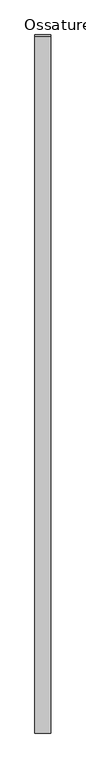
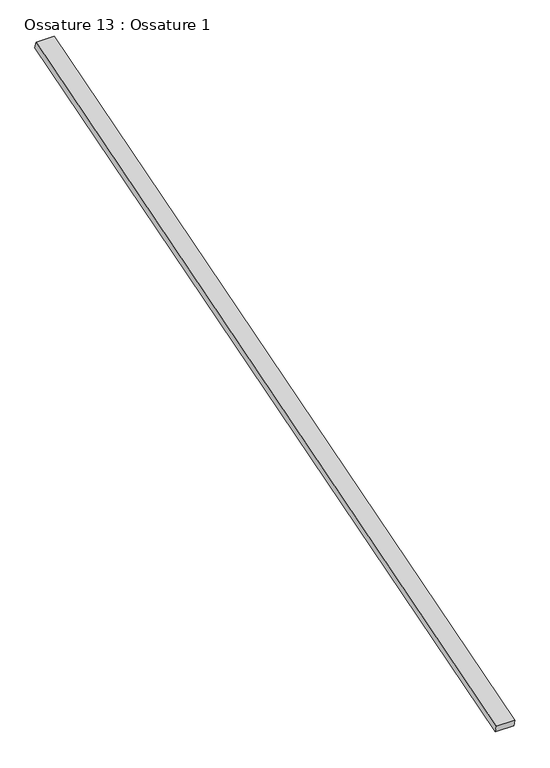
"""IFC4 building model written with IfcOpenShell, lengths in millimetres: beam geometry, Ossature 13 : Ossature 1."""

import ifcopenshell
import ifcopenshell.guid

model = None  # the IFC model being written
_history = None  # IfcOwnerHistory: only IFC2X3 demands one
_inside = {}  # id of a spatial element -> (the spatial element, [elements in it])
_under = {}  # id of a project, library or spatial element -> (it, [spatial elements below it])
_declared = {}  # id of a project -> (the project, [libraries it declares])
_typed = {}  # id of a type object -> (the type object, [elements of that type])
_made_of = {}  # id of a material, layer set ... -> (it, [elements and type objects made of it])


def new_model(schema):
    """Start an empty IFC model of exactly this schema.

    Asked for "IFC4X3", IfcOpenShell would pick the latest addendum, in which some entities
    have other attributes; the version numbers below select the first issue.
    IFC2X3 requires an IfcOwnerHistory on every rooted entity: one is made here for all.
    """
    global model, _history
    if schema == "IFC4X3":
        model = ifcopenshell.file(schema_version=(4, 3, 0, 0))
    else:
        model = ifcopenshell.file(schema=schema)
    _inside.clear()
    _under.clear()
    _declared.clear()
    _typed.clear()
    _made_of.clear()
    _history = None
    if model.schema == "IFC2X3":
        org = make("IfcOrganization", Name="unknown")
        user = make(
            "IfcPersonAndOrganization",
            ThePerson=make("IfcPerson", FamilyName="unknown"),
            TheOrganization=org,
        )
        app = make(
            "IfcApplication",
            ApplicationDeveloper=org,
            Version="unknown",
            ApplicationFullName="unknown",
            ApplicationIdentifier="unknown",
        )
        _history = make(
            "IfcOwnerHistory",
            OwningUser=user,
            OwningApplication=app,
            ChangeAction="ADDED",
            CreationDate=0,
        )
    return model


def make(cls, **values):
    """One entity of the class cls with the attributes given. An attribute that is None is left unset."""
    return model.create_entity(
        cls, **{name: value for name, value in values.items() if value is not None}
    )


def rooted(cls, **values):
    """An entity with a GlobalId (a new one), such as an element, a storey or a relation."""
    return make(cls, GlobalId=ifcopenshell.guid.new(), OwnerHistory=_history, **values)


def si_unit(unit_type, name, prefix=None):
    """IfcSIUnit, for example si_unit("LENGTHUNIT", "METRE", prefix="MILLI")."""
    return make("IfcSIUnit", UnitType=unit_type, Prefix=prefix, Name=name)


def assignment(units):
    """IfcUnitAssignment: the units of a project."""
    return None if units is None else make("IfcUnitAssignment", Units=units)


def point(xyz):
    """IfcCartesianPoint."""
    return None if xyz is None else make("IfcCartesianPoint", Coordinates=xyz)


def direction(xyz):
    """IfcDirection."""
    return None if xyz is None else make("IfcDirection", DirectionRatios=xyz)


def frame(location, z_axis=None, x_axis=None):
    """IfcAxis2Placement3D, a coordinate frame: its origin and axes. An axis left out is left unset."""
    return make(
        "IfcAxis2Placement3D",
        Location=point(location),
        Axis=direction(z_axis),
        RefDirection=direction(x_axis),
    )


def origin():
    """The frame at (0, 0, 0) with its axes left unset."""
    return frame((0.0, 0.0, 0.0))


def place(relative_to, where):
    """IfcLocalPlacement: puts the frame where relative to a parent placement (None: the world)."""
    return make(
        "IfcLocalPlacement", PlacementRelTo=relative_to, RelativePlacement=where
    )


def context(
    kind, dimensions, precision=None, world=None, true_north=None, identifier=None
):
    """IfcGeometricRepresentationContext, for example the 3D "Model" context."""
    return make(
        "IfcGeometricRepresentationContext",
        ContextIdentifier=identifier,
        ContextType=kind,
        CoordinateSpaceDimension=dimensions,
        Precision=precision,
        WorldCoordinateSystem=world,
        TrueNorth=true_north,
    )


def project(units=None, contexts=None):
    """IfcProject with its units and contexts."""
    return rooted(
        "IfcProject",
        Name="project",
        RepresentationContexts=contexts,
        UnitsInContext=assignment(units),
    )


def spatial(cls, under=None, at=None, **own):
    """A site, building, storey or space (cls), placed at a placement, below another one or the project."""
    s = rooted(cls, ObjectPlacement=at, **own)
    if under is not None:
        _under.setdefault(under.id(), (under, []))[1].append(s)
    return s


def polyline(points):
    """IfcPolyline through the points."""
    return make("IfcPolyline", Points=[point(p) for p in points])


def outline(outer, holes=None, kind="AREA"):
    """IfcArbitraryClosedProfileDef: a profile drawn as a closed curve; with holes, ...WithVoids."""
    if holes is None:
        return make("IfcArbitraryClosedProfileDef", ProfileType=kind, OuterCurve=outer)
    return make(
        "IfcArbitraryProfileDefWithVoids",
        ProfileType=kind,
        OuterCurve=outer,
        InnerCurves=holes,
    )


def extrude(swept, where, along, depth):
    """IfcExtrudedAreaSolid: the profile swept, set in the frame where, extruded along a direction by depth."""
    return make(
        "IfcExtrudedAreaSolid",
        SweptArea=swept,
        Position=where,
        ExtrudedDirection=direction(along),
        Depth=depth,
    )


def shape(context_of_items, identifier, shape_type, items):
    """IfcShapeRepresentation: the items that make up one representation, for example the "Body"."""
    return make(
        "IfcShapeRepresentation",
        ContextOfItems=context_of_items,
        RepresentationIdentifier=identifier,
        RepresentationType=shape_type,
        Items=items,
    )


def source(mapping_origin, context_of_items, identifier, shape_type, items):
    """IfcRepresentationMap: a shape defined once, which mapped items show again and again."""
    return make(
        "IfcRepresentationMap",
        MappingOrigin=mapping_origin,
        MappedRepresentation=shape(context_of_items, identifier, shape_type, items),
    )


def transform(
    local_origin,
    x_axis=None,
    y_axis=None,
    z_axis=None,
    scale=None,
    scale2=None,
    scale3=None,
    uniform=True,
):
    """IfcCartesianTransformationOperator3D, or its non-uniform kind. x_axis, y_axis, z_axis: its Axis1, 2, 3."""
    if uniform:
        return make(
            "IfcCartesianTransformationOperator3D",
            Axis1=direction(x_axis),
            Axis2=direction(y_axis),
            LocalOrigin=point(local_origin),
            Scale=scale,
            Axis3=direction(z_axis),
        )
    return make(
        "IfcCartesianTransformationOperator3DnonUniform",
        Axis1=direction(x_axis),
        Axis2=direction(y_axis),
        LocalOrigin=point(local_origin),
        Scale=scale,
        Axis3=direction(z_axis),
        Scale2=scale2,
        Scale3=scale3,
    )


def mapped(mapping_source, mapping_target):
    """IfcMappedItem: shows the shape of a source again, moved by a transform."""
    return make(
        "IfcMappedItem", MappingSource=mapping_source, MappingTarget=mapping_target
    )


def made_of(thing, what):
    """Note that an element or type object is made of a material, layer set ...; save() writes the relation."""
    if what is not None:
        _made_of.setdefault(what.id(), (what, []))[1].append(thing)
    return thing


def element(
    cls,
    number,
    at=None,
    inside=None,
    cuts=None,
    type_object=None,
    material=None,
    context=None,
    identifier="Body",
    shape_type=None,
    held_by="IfcProductDefinitionShape",
    body=None,
    shapes=None,
    **own,
):
    """One element of the class cls, such as IfcWall. Its Tag is "e" and its number.

    at: its placement. inside: the storey or other place that contains it. cuts: it is an
    opening in that element (IfcRelVoidsElement). A single representation is given by context,
    identifier, shape_type and body (its items); several are given by shapes. held_by: the class
    of the entity that holds the representations. save() writes the other relations.
    """
    e = rooted(cls, Tag="e%d" % number, ObjectPlacement=at, **own)
    if body is not None:
        shapes = [shape(context, identifier, shape_type, body)]
    if shapes is not None:
        e.Representation = make(held_by, Representations=shapes)
    if inside is not None:
        _inside.setdefault(inside.id(), (inside, []))[1].append(e)
    if cuts is not None:
        rooted(
            "IfcRelVoidsElement", RelatingBuildingElement=cuts, RelatedOpeningElement=e
        )
    if type_object is not None:
        _typed.setdefault(type_object.id(), (type_object, []))[1].append(e)
    return made_of(e, material)


def aggregate(whole, parts):
    """IfcRelAggregates: a whole, such as a stair, and the parts it consists of."""
    return rooted("IfcRelAggregates", RelatingObject=whole, RelatedObjects=parts)


def save(model, path):
    """Write the relations noted so far, then the file.

    IfcRelAggregates (storeys below a building ...), IfcRelContainedInSpatialStructure (elements
    in a storey), IfcRelDefinesByType, IfcRelAssociatesMaterial and IfcRelDeclares: one each for
    every whole, place, type object, material and project.
    """
    for whole, parts in _under.values():
        aggregate(whole, parts)
    for where, things in _inside.values():
        rooted(
            "IfcRelContainedInSpatialStructure",
            RelatedElements=things,
            RelatingStructure=where,
        )
    for kind, things in _typed.values():
        rooted("IfcRelDefinesByType", RelatedObjects=things, RelatingType=kind)
    for what, things in _made_of.values():
        rooted("IfcRelAssociatesMaterial", RelatedObjects=things, RelatingMaterial=what)
    for by, libraries in _declared.values():
        rooted("IfcRelDeclares", RelatingContext=by, RelatedDefinitions=libraries)
    model.write(path)


def ossature_13_ossature_1_f9ea2032(model_context):
    return source(origin(), model_context, "Body", "SweptSolid", [
        extrude(outline(polyline([(0.0, 0.0), (0.0, -4543.0299679), (-100.0, -4543.0299679), (-100.0, 0.0), (0.0, 0.0)])), frame((3407.0466393, -833.3913565, 8153.6336115), z_axis=(0.0, -0.28734788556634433, 0.9578262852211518), x_axis=(-1.0, 0.0, 0.0)), (0.0, 0.0, 1.0), 40.0),
    ])


if __name__ == "__main__":
    model = new_model("IFC4")
    model_context = context("Model", 3, world=origin())
    ifc_project = project(units=[si_unit("LENGTHUNIT", "METRE", prefix="MILLI")], contexts=[model_context])
    site = spatial("IfcSite", under=ifc_project)
    building = spatial("IfcBuilding", under=site)
    placement = place(None, origin())
    ossature_13_ossature_1_shape = ossature_13_ossature_1_f9ea2032(model_context)
    element("IfcBeam", 1, ObjectType="Ossature 13 : Ossature 1", at=placement, inside=building, context=model_context, shape_type="MappedRepresentation", body=[
        mapped(ossature_13_ossature_1_shape, transform((0.0, 0.0, 0.0), x_axis=(1.0, 0.0, 0.0), y_axis=(0.0, 1.0, 0.0), z_axis=(0.0, 0.0, 1.0))),
    ])
    save(model, "model.ifc")
